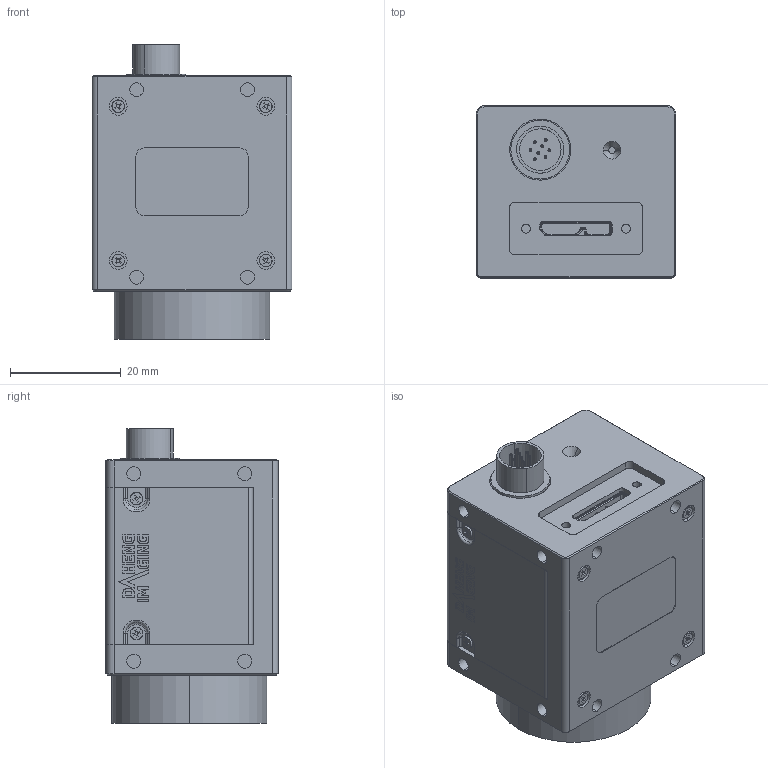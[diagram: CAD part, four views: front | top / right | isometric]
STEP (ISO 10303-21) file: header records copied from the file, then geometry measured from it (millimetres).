
FILE_DESCRIPTION (( 'STEP AP203' ), '1' );
FILE_NAME ('me2p_u3_user_s1.0.1.STEP', '2019-12-18T06:12:10', ( '' ), ( '' ), 'SwSTEP 2.0', 'SolidWorks 2016', '' );
FILE_SCHEMA (( 'CONFIG_CONTROL_DESIGN' ));
Length unit declared in the file: millimetre
Products named in the file (1): me2p_u3_user_s1.0.1
Bounding box: 36.01 x 31 x 53.1 mm (x, y, z)
Volume: 39029 mm3; surface area: 18219.2 mm2
Topology: 5 solids, 8 shells, 1218 faces, 3182 edges, 2049 vertices
Faces by surface type: plane 664, cylinder 402, cone 64, bspline 52, torus 36
Entity records: 38572 total; most frequent: CARTESIAN_POINT 8067, DIRECTION 6365, ORIENTED_EDGE 6356, EDGE_CURVE 3178, AXIS2_PLACEMENT_3D 2147, LINE 2071, VECTOR 2071, VERTEX_POINT 2049
